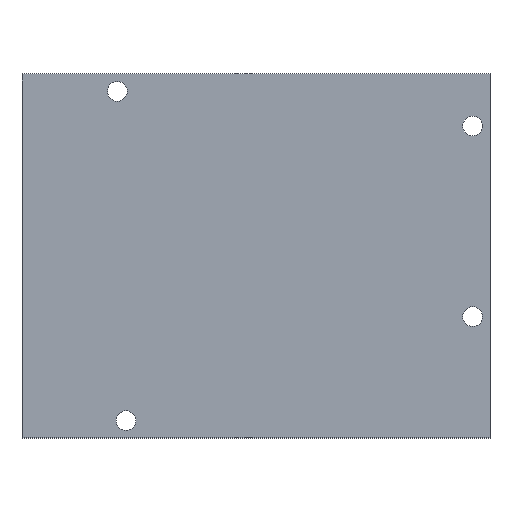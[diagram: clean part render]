
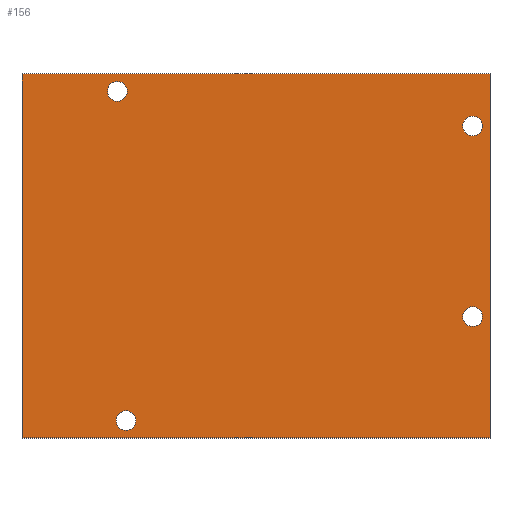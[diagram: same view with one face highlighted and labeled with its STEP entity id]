
A CAD part, top view. The second image highlights one B-rep face of the part: STEP entity #156.
In plain terms, the highlighted planar face has unit normal (0, 0, 1).
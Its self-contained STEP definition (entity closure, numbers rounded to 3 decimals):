
#32 = VERTEX_POINT('',#33);
#33 = CARTESIAN_POINT('',(0.,53.34,3.));
#39 = EDGE_CURVE('',#32,#40,#42,.T.);
#40 = VERTEX_POINT('',#41);
#41 = CARTESIAN_POINT('',(0.,0.,3.));
#42 = LINE('',#43,#44);
#43 = CARTESIAN_POINT('',(0.,53.34,3.));
#44 = VECTOR('',#45,1.);
#45 = DIRECTION('',(0.,-1.,0.));
#139 = VERTEX_POINT('',#140);
#140 = CARTESIAN_POINT('',(68.58,0.,3.));
#146 = EDGE_CURVE('',#40,#139,#147,.T.);
#147 = LINE('',#148,#149);
#148 = CARTESIAN_POINT('',(0.,0.,3.));
#149 = VECTOR('',#150,1.);
#150 = DIRECTION('',(1.,0.,0.));
#156 = ADVANCED_FACE('',(#157,#175,#186,#197,#208),#219,.T.);
#157 = FACE_BOUND('',#158,.T.);
#158 = EDGE_LOOP('',(#159,#167,#168,#169));
#159 = ORIENTED_EDGE('',*,*,#160,.F.);
#160 = EDGE_CURVE('',#32,#161,#163,.T.);
#161 = VERTEX_POINT('',#162);
#162 = CARTESIAN_POINT('',(68.58,53.34,3.));
#163 = LINE('',#164,#165);
#164 = CARTESIAN_POINT('',(0.,53.34,3.));
#165 = VECTOR('',#166,1.);
#166 = DIRECTION('',(1.,0.,0.));
#167 = ORIENTED_EDGE('',*,*,#39,.T.);
#168 = ORIENTED_EDGE('',*,*,#146,.T.);
#169 = ORIENTED_EDGE('',*,*,#170,.F.);
#170 = EDGE_CURVE('',#161,#139,#171,.T.);
#171 = LINE('',#172,#173);
#172 = CARTESIAN_POINT('',(68.58,53.34,3.));
#173 = VECTOR('',#174,1.);
#174 = DIRECTION('',(0.,-1.,0.));
#175 = FACE_BOUND('',#176,.T.);
#176 = EDGE_LOOP('',(#177));
#177 = ORIENTED_EDGE('',*,*,#178,.F.);
#178 = EDGE_CURVE('',#179,#179,#181,.T.);
#179 = VERTEX_POINT('',#180);
#180 = CARTESIAN_POINT('',(13.97,49.35,3.));
#181 = CIRCLE('',#182,1.45);
#182 = AXIS2_PLACEMENT_3D('',#183,#184,#185);
#183 = CARTESIAN_POINT('',(13.97,50.8,3.));
#184 = DIRECTION('',(0.,0.,1.));
#185 = DIRECTION('',(0.,-1.,0.));
#186 = FACE_BOUND('',#187,.T.);
#187 = EDGE_LOOP('',(#188));
#188 = ORIENTED_EDGE('',*,*,#189,.F.);
#189 = EDGE_CURVE('',#190,#190,#192,.T.);
#190 = VERTEX_POINT('',#191);
#191 = CARTESIAN_POINT('',(15.24,1.09,3.));
#192 = CIRCLE('',#193,1.45);
#193 = AXIS2_PLACEMENT_3D('',#194,#195,#196);
#194 = CARTESIAN_POINT('',(15.24,2.54,3.));
#195 = DIRECTION('',(0.,0.,1.));
#196 = DIRECTION('',(0.,-1.,0.));
#197 = FACE_BOUND('',#198,.T.);
#198 = EDGE_LOOP('',(#199));
#199 = ORIENTED_EDGE('',*,*,#200,.F.);
#200 = EDGE_CURVE('',#201,#201,#203,.T.);
#201 = VERTEX_POINT('',#202);
#202 = CARTESIAN_POINT('',(66.04,44.27,3.));
#203 = CIRCLE('',#204,1.45);
#204 = AXIS2_PLACEMENT_3D('',#205,#206,#207);
#205 = CARTESIAN_POINT('',(66.04,45.72,3.));
#206 = DIRECTION('',(0.,0.,1.));
#207 = DIRECTION('',(0.,-1.,0.));
#208 = FACE_BOUND('',#209,.T.);
#209 = EDGE_LOOP('',(#210));
#210 = ORIENTED_EDGE('',*,*,#211,.F.);
#211 = EDGE_CURVE('',#212,#212,#214,.T.);
#212 = VERTEX_POINT('',#213);
#213 = CARTESIAN_POINT('',(66.04,16.33,3.));
#214 = CIRCLE('',#215,1.45);
#215 = AXIS2_PLACEMENT_3D('',#216,#217,#218);
#216 = CARTESIAN_POINT('',(66.04,17.78,3.));
#217 = DIRECTION('',(0.,0.,1.));
#218 = DIRECTION('',(0.,-1.,0.));
#219 = PLANE('',#220);
#220 = AXIS2_PLACEMENT_3D('',#221,#222,#223);
#221 = CARTESIAN_POINT('',(0.,53.34,3.));
#222 = DIRECTION('',(0.,0.,1.));
#223 = DIRECTION('',(0.,-1.,0.));
